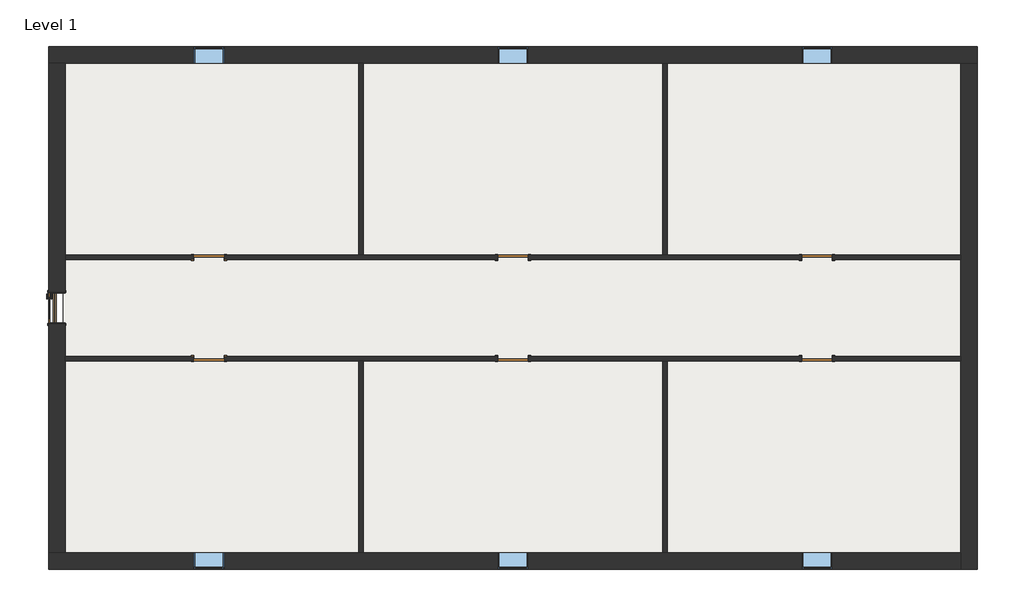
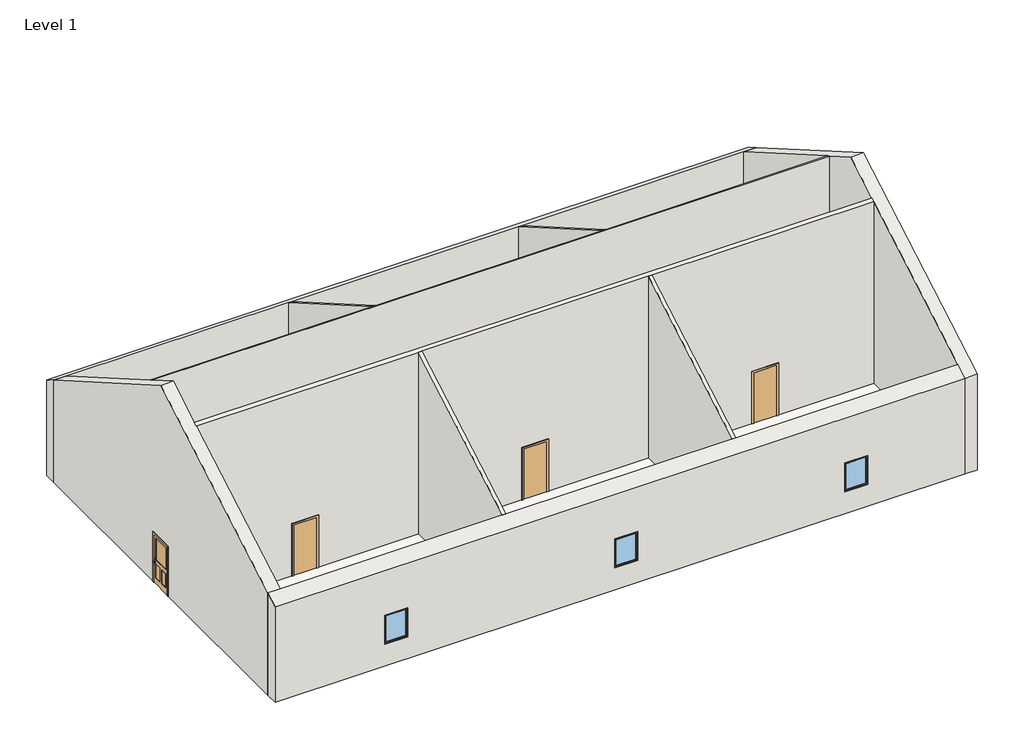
# One storey: 10 walls, 7 doors, 6 windows, 1 slab.
"""IFC4 building model written with IfcOpenShell, lengths in millimetres."""

from ifc_helpers import new_model, si_unit, frame, origin, place, context, project, spatial, polyline, outline, extrude, faceted_brep, transform, mapped, element, save
from components import door_9a8c5ecc, door_a1797ceb, window_eeedf783, window_4cc3bb0a

model = new_model("IFC4")

# Units and contexts
model_context = context("Model", 3, world=origin())
ifc_project = project(units=[si_unit("LENGTHUNIT", "METRE", prefix="MILLI")], contexts=[model_context])

# Site, building, storey
site = spatial("IfcSite", under=ifc_project)
building = spatial("IfcBuilding", under=site)
storey = spatial("IfcBuildingStorey", under=building, Name="Level 1", Elevation=0.0)

# Doors
placement = place(None, origin())
door_shape = door_9a8c5ecc(model_context)
element("IfcDoor", 1, ObjectType="Door-Exterior-Single-Entry-Half Flat Glass-Wood_Clad : 36\" x 80\"", at=placement, inside=storey, context=model_context, shape_type="MappedRepresentation", body=[
    mapped(door_shape, transform((-14497.0350729, 1304.794194, 0.0), x_axis=(0.0, 1.0, 0.0), y_axis=(-1.0, 0.0, 0.0), z_axis=(0.0, 0.0, 1.0))),
])
door_2_shape = door_a1797ceb(model_context)
element("IfcDoor", 2, ObjectType="Single-Flush : 36\" x 84\"", at=placement, inside=storey, context=model_context, shape_type="MappedRepresentation", body=[
    mapped(door_2_shape, transform((-9921.8600729, 2828.794194, 0.0), x_axis=(1.0, 0.0, 0.0), y_axis=(0.0, 1.0, 0.0), z_axis=(0.0, 0.0, 1.0))),
])
element("IfcDoor", 3, ObjectType="Single-Flush : 36\" x 84\"", at=placement, inside=storey, context=model_context, shape_type="MappedRepresentation", body=[
    mapped(door_2_shape, transform((-777.8600729, 2828.794194, 0.0), x_axis=(1.0, 0.0, 0.0), y_axis=(0.0, 1.0, 0.0), z_axis=(0.0, 0.0, 1.0))),
])
element("IfcDoor", 4, ObjectType="Single-Flush : 36\" x 84\"", at=placement, inside=storey, context=model_context, shape_type="MappedRepresentation", body=[
    mapped(door_2_shape, transform((8366.1399271, 2828.794194, 0.0), x_axis=(1.0, 0.0, 0.0), y_axis=(0.0, 1.0, 0.0), z_axis=(0.0, 0.0, 1.0))),
])
element("IfcDoor", 5, ObjectType="Single-Flush : 36\" x 84\"", at=placement, inside=storey, context=model_context, shape_type="MappedRepresentation", body=[
    mapped(door_2_shape, transform((8366.1399271, -219.205806, 0.0), x_axis=(-1.0, 0.0, 0.0), y_axis=(0.0, -1.0, 0.0), z_axis=(0.0, 0.0, 1.0))),
])
element("IfcDoor", 6, ObjectType="Single-Flush : 36\" x 84\"", at=placement, inside=storey, context=model_context, shape_type="MappedRepresentation", body=[
    mapped(door_2_shape, transform((-777.8600729, -219.205806, 0.0), x_axis=(-1.0, 0.0, 0.0), y_axis=(0.0, -1.0, 0.0), z_axis=(0.0, 0.0, 1.0))),
])
element("IfcDoor", 7, ObjectType="Single-Flush : 36\" x 84\"", at=placement, inside=storey, context=model_context, shape_type="MappedRepresentation", body=[
    mapped(door_2_shape, transform((-9921.8600729, -219.205806, 0.0), x_axis=(-1.0, 0.0, 0.0), y_axis=(0.0, -1.0, 0.0), z_axis=(0.0, 0.0, 1.0))),
])

# Slab
element("IfcSlab", 8, ObjectType="Wood Truss  Joist 12\" - Carpet Finish ", at=placement, inside=storey, context=model_context, shape_type="SweptSolid", body=[
    extrude(outline(polyline([(12747.6399271, 8734.294194), (12747.6399271, -6124.705806), (-14303.3600729, -6124.705806), (-14303.3600729, 8734.294194), (12747.6399271, 8734.294194)])), frame((0.0, 0.0, -323.85), z_axis=(0.0, 0.0, 1.0), x_axis=(1.0, 0.0, 0.0)), (0.0, 0.0, 1.0), 323.85),
])

# Walls
element("IfcWall", 9, ObjectType="Exterior - Brick on CMU", at=placement, inside=storey, context=model_context, shape_type="Brep", body=[
    faceted_brep([(-14741.5100729, 8677.144194, 0.0), (-14246.2100729, 8677.144194, 0.0), (-5413.3600729, 8677.144194, 0.0), (-5286.3600729, 8677.144194, 0.0), (3730.6399271, 8677.144194, 0.0), (3857.6399271, 8677.144194, 0.0), (12690.4899271, 8677.144194, 0.0), (13185.7899271, 8677.144194, 0.0), (13185.7899271, 8677.144194, 4305.7671549), (12690.4899271, 8677.144194, 4305.7671549), (3857.6399271, 8677.144194, 4305.7671549), (3730.6399271, 8677.144194, 4305.7671549), (-5286.3600729, 8677.144194, 4305.7671549), (-5413.3600729, 8677.144194, 4305.7671549), (-14246.2100729, 8677.144194, 4305.7671549), (-14741.5100729, 8677.144194, 4305.7671549), (-10379.0600729, 8677.144194, 2133.6), (-9464.6600729, 8677.144194, 2133.6), (-9464.6600729, 8677.144194, 914.4), (-10379.0600729, 8677.144194, 914.4), (-1235.0600729, 8677.144194, 2133.6), (-320.6600729, 8677.144194, 2133.6), (-320.6600729, 8677.144194, 914.4), (-1235.0600729, 8677.144194, 914.4), (8823.3399271, 8677.144194, 2133.6), (8823.3399271, 8677.144194, 914.4), (7908.9399271, 8677.144194, 914.4), (7908.9399271, 8677.144194, 2133.6), (-14741.5100729, 9172.444194, 0.0), (-14741.5100729, 9172.444194, 4019.7443034), (13185.7899271, 9172.444194, 4019.7443034), (13185.7899271, 9172.444194, 0.0), (-10379.0600729, 9172.444194, 2133.6), (-10379.0600729, 9172.444194, 914.4), (-9464.6600729, 9172.444194, 914.4), (-9464.6600729, 9172.444194, 2133.6), (-1235.0600729, 9172.444194, 2133.6), (-1235.0600729, 9172.444194, 914.4), (-320.6600729, 9172.444194, 914.4), (-320.6600729, 9172.444194, 2133.6), (8823.3399271, 9172.444194, 2133.6), (7908.9399271, 9172.444194, 2133.6), (7908.9399271, 9172.444194, 914.4), (8823.3399271, 9172.444194, 914.4)], [[[0, 1, 2, 3, 4, 5, 6, 7, 8, 9, 10, 11, 12, 13, 14, 15], [16, 17, 18, 19], [20, 21, 22, 23], [24, 25, 26, 27]], [[28, 29, 30, 31], [32, 33, 34, 35], [36, 37, 38, 39], [40, 41, 42, 43]], [[7, 6, 5, 4, 3, 2, 1, 0, 28, 31]], [[8, 7, 31, 30]], [[0, 15, 29, 28]], [[15, 14, 13, 12, 11, 10, 9, 8, 30, 29]], [[33, 32, 16, 19]], [[34, 33, 19, 18]], [[35, 34, 18, 17]], [[32, 35, 17, 16]], [[37, 36, 20, 23]], [[38, 37, 23, 22]], [[39, 38, 22, 21]], [[36, 39, 21, 20]], [[25, 24, 40, 43]], [[26, 25, 43, 42]], [[27, 26, 42, 41]], [[24, 27, 41, 40]]]),
])
element("IfcWall", 10, ObjectType="Exterior - Brick on CMU", at=placement, inside=storey, context=model_context, shape_type="Brep", body=[
    faceted_brep([(12690.4899271, 8677.144194, 0.0), (12690.4899271, 2892.294194, 0.0), (12690.4899271, 2765.294194, 0.0), (12690.4899271, -155.705806, 0.0), (12690.4899271, -282.705806, 0.0), (12690.4899271, -6067.555806, 0.0), (12690.4899271, -6562.855806, 0.0), (12690.4899271, -6562.855806, 4019.7443034), (12690.4899271, -6067.555806, 4305.7671549), (12690.4899271, -282.705806, 7646.3673828), (12690.4899271, -155.705806, 7719.7065755), (12690.4899271, 1304.794194, 8563.1072917), (12690.4899271, 2765.294194, 7719.7065755), (12690.4899271, 2892.294194, 7646.3673828), (12690.4899271, 8677.144194, 4305.7671549), (13185.7899271, 8677.144194, 0.0), (13185.7899271, 8677.144194, 4305.7671549), (13185.7899271, 1304.794194, 8563.1072917), (13185.7899271, -6562.855806, 4019.7443034), (13185.7899271, -6562.855806, 0.0)], [[[0, 1, 2, 3, 4, 5, 6, 7, 8, 9, 10, 11, 12, 13, 14]], [[15, 16, 17, 18, 19]], [[6, 5, 4, 3, 2, 1, 0, 15, 19]], [[0, 14, 16, 15]], [[7, 6, 19, 18]], [[14, 13, 12, 11, 17, 16]], [[11, 10, 9, 8, 7, 18, 17]]]),
])
element("IfcWall", 11, ObjectType="Exterior - Brick on CMU", at=placement, inside=storey, context=model_context, shape_type="Brep", body=[
    faceted_brep([(12690.4899271, -6067.555806, 0.0), (3857.6399271, -6067.555806, 0.0), (3730.6399271, -6067.555806, 0.0), (-5286.3600729, -6067.555806, 0.0), (-5413.3600729, -6067.555806, 0.0), (-14246.2100729, -6067.555806, 0.0), (-14741.5100729, -6067.555806, 0.0), (-14741.5100729, -6067.555806, 4305.7671549), (-14246.2100729, -6067.555806, 4305.7671549), (-5413.3600729, -6067.555806, 4305.7671549), (-5286.3600729, -6067.555806, 4305.7671549), (3730.6399271, -6067.555806, 4305.7671549), (3857.6399271, -6067.555806, 4305.7671549), (12690.4899271, -6067.555806, 4305.7671549), (-10379.0600729, -6067.555806, 2133.6), (-10379.0600729, -6067.555806, 914.4), (-9464.6600729, -6067.555806, 914.4), (-9464.6600729, -6067.555806, 2133.6), (-1235.0600729, -6067.555806, 2133.6), (-1235.0600729, -6067.555806, 914.4), (-320.6600729, -6067.555806, 914.4), (-320.6600729, -6067.555806, 2133.6), (7908.9399271, -6067.555806, 2133.6), (7908.9399271, -6067.555806, 914.4), (8823.3399271, -6067.555806, 914.4), (8823.3399271, -6067.555806, 2133.6), (12690.4899271, -6562.855806, 0.0), (12690.4899271, -6562.855806, 4019.7443034), (-14741.5100729, -6562.855806, 4019.7443034), (-14741.5100729, -6562.855806, 0.0), (-10379.0600729, -6562.855806, 2133.6), (-9464.6600729, -6562.855806, 2133.6), (-9464.6600729, -6562.855806, 914.4), (-10379.0600729, -6562.855806, 914.4), (-1235.0600729, -6562.855806, 2133.6), (-320.6600729, -6562.855806, 2133.6), (-320.6600729, -6562.855806, 914.4), (-1235.0600729, -6562.855806, 914.4), (7908.9399271, -6562.855806, 2133.6), (8823.3399271, -6562.855806, 2133.6), (8823.3399271, -6562.855806, 914.4), (7908.9399271, -6562.855806, 914.4)], [[[0, 1, 2, 3, 4, 5, 6, 7, 8, 9, 10, 11, 12, 13], [14, 15, 16, 17], [18, 19, 20, 21], [22, 23, 24, 25]], [[26, 27, 28, 29], [30, 31, 32, 33], [34, 35, 36, 37], [38, 39, 40, 41]], [[6, 5, 4, 3, 2, 1, 0, 26, 29]], [[0, 13, 27, 26]], [[7, 6, 29, 28]], [[13, 12, 11, 10, 9, 8, 7, 28, 27]], [[15, 14, 30, 33]], [[16, 15, 33, 32]], [[17, 16, 32, 31]], [[14, 17, 31, 30]], [[19, 18, 34, 37]], [[20, 19, 37, 36]], [[21, 20, 36, 35]], [[18, 21, 35, 34]], [[23, 22, 38, 41]], [[24, 23, 41, 40]], [[25, 24, 40, 39]], [[22, 25, 39, 38]]]),
])
element("IfcWall", 12, ObjectType="Exterior - Brick on CMU", at=placement, inside=storey, context=model_context, shape_type="Brep", body=[
    faceted_brep([(-14246.2100729, 8677.144194, 0.0), (-14246.2100729, 8677.144194, 4305.7671549), (-14246.2100729, 2892.294194, 7646.3673828), (-14246.2100729, 2765.294194, 7719.7065755), (-14246.2100729, 1304.794194, 8563.1072917), (-14246.2100729, -155.705806, 7719.7065755), (-14246.2100729, -282.705806, 7646.3673828), (-14246.2100729, -6067.555806, 4305.7671549), (-14246.2100729, -6067.555806, 0.0), (-14246.2100729, -282.705806, 0.0), (-14246.2100729, -155.705806, 0.0), (-14246.2100729, 822.194194, 0.0), (-14246.2100729, 822.194194, 2057.4), (-14246.2100729, 1787.394194, 2057.4), (-14246.2100729, 1787.394194, 0.0), (-14246.2100729, 2765.294194, 0.0), (-14246.2100729, 2892.294194, 0.0), (-14741.5100729, 8677.144194, 4305.7671549), (-14741.5100729, 8677.144194, 0.0), (-14741.5100729, 1787.394194, 0.0), (-14741.5100729, 1787.394194, 2057.4), (-14741.5100729, 822.194194, 2057.4), (-14741.5100729, 822.194194, 0.0), (-14741.5100729, -6067.555806, 0.0), (-14741.5100729, -6067.555806, 4305.7671549), (-14741.5100729, 1304.794194, 8563.1072917)], [[[0, 1, 2, 3, 4, 5, 6, 7, 8, 9, 10, 11, 12, 13, 14, 15, 16]], [[17, 18, 19, 20, 21, 22, 23, 24, 25]], [[8, 23, 22, 11, 10, 9]], [[18, 0, 16, 15, 14, 19]], [[1, 0, 18, 17]], [[8, 7, 24, 23]], [[24, 7, 6, 5, 4, 25]], [[1, 17, 25, 4, 3, 2]], [[13, 20, 19, 14]], [[20, 13, 12, 21]], [[21, 12, 11, 22]]]),
])
element("IfcWall", 13, ObjectType="Interior - 5\" Partition (2-hr)", at=placement, inside=storey, context=model_context, shape_type="Brep", body=[
    faceted_brep([(8823.3399271, 2765.294194, 2133.6), (8823.3399271, 2765.294194, 0.0), (12690.4899271, 2765.294194, 0.0), (12690.4899271, 2765.294194, 7719.7065755), (-14246.2100729, 2765.294194, 7719.7065755), (-14246.2100729, 2765.294194, 0.0), (-10379.0600729, 2765.294194, 0.0), (-10379.0600729, 2765.294194, 2133.6), (-9464.6600729, 2765.294194, 2133.6), (-9464.6600729, 2765.294194, 0.0), (-1235.0600729, 2765.294194, 0.0), (-1235.0600729, 2765.294194, 2133.6), (-320.6600729, 2765.294194, 2133.6), (-320.6600729, 2765.294194, 0.0), (7908.9399271, 2765.294194, 0.0), (7908.9399271, 2765.294194, 2133.6), (12690.4899271, 2892.294194, 0.0), (8823.3399271, 2892.294194, 0.0), (8823.3399271, 2892.294194, 2133.6), (7908.9399271, 2892.294194, 2133.6), (7908.9399271, 2892.294194, 0.0), (3857.6399271, 2892.294194, 0.0), (3730.6399271, 2892.294194, 0.0), (-320.6600729, 2892.294194, 0.0), (-320.6600729, 2892.294194, 2133.6), (-1235.0600729, 2892.294194, 2133.6), (-1235.0600729, 2892.294194, 0.0), (-5286.3600729, 2892.294194, 0.0), (-5413.3600729, 2892.294194, 0.0), (-9464.6600729, 2892.294194, 0.0), (-9464.6600729, 2892.294194, 2133.6), (-10379.0600729, 2892.294194, 2133.6), (-10379.0600729, 2892.294194, 0.0), (-14246.2100729, 2892.294194, 0.0), (-14246.2100729, 2892.294194, 7646.3673828), (-5413.3600729, 2892.294194, 7646.3673828), (-5286.3600729, 2892.294194, 7646.3673828), (3730.6399271, 2892.294194, 7646.3673828), (3857.6399271, 2892.294194, 7646.3673828), (12690.4899271, 2892.294194, 7646.3673828)], [[[0, 1, 2, 3, 4, 5, 6, 7, 8, 9, 10, 11, 12, 13, 14, 15]], [[16, 17, 18, 19, 20, 21, 22, 23, 24, 25, 26, 27, 28, 29, 30, 31, 32, 33, 34, 35, 36, 37, 38, 39]], [[6, 5, 33, 32]], [[10, 9, 29, 28, 27, 26]], [[14, 13, 23, 22, 21, 20]], [[2, 1, 17, 16]], [[3, 2, 16, 39]], [[5, 4, 34, 33]], [[4, 3, 39, 38, 37, 36, 35, 34]], [[30, 29, 9, 8]], [[31, 30, 8, 7]], [[32, 31, 7, 6]], [[24, 23, 13, 12]], [[25, 24, 12, 11]], [[26, 25, 11, 10]], [[18, 17, 1, 0]], [[19, 18, 0, 15]], [[20, 19, 15, 14]]]),
])
element("IfcWall", 14, ObjectType="Interior - 5\" Partition (2-hr)", at=placement, inside=storey, context=model_context, shape_type="Brep", body=[
    faceted_brep([(-10379.0600729, -155.705806, 2133.6), (-10379.0600729, -155.705806, 0.0), (-14246.2100729, -155.705806, 0.0), (-14246.2100729, -155.705806, 7719.7065755), (12690.4899271, -155.705806, 7719.7065755), (12690.4899271, -155.705806, 0.0), (8823.3399271, -155.705806, 0.0), (8823.3399271, -155.705806, 2133.6), (7908.9399271, -155.705806, 2133.6), (7908.9399271, -155.705806, 0.0), (-320.6600729, -155.705806, 0.0), (-320.6600729, -155.705806, 2133.6), (-1235.0600729, -155.705806, 2133.6), (-1235.0600729, -155.705806, 0.0), (-9464.6600729, -155.705806, 0.0), (-9464.6600729, -155.705806, 2133.6), (-14246.2100729, -282.705806, 0.0), (-10379.0600729, -282.705806, 0.0), (-10379.0600729, -282.705806, 2133.6), (-9464.6600729, -282.705806, 2133.6), (-9464.6600729, -282.705806, 0.0), (-5413.3600729, -282.705806, 0.0), (-5286.3600729, -282.705806, 0.0), (-1235.0600729, -282.705806, 0.0), (-1235.0600729, -282.705806, 2133.6), (-320.6600729, -282.705806, 2133.6), (-320.6600729, -282.705806, 0.0), (3730.6399271, -282.705806, 0.0), (3857.6399271, -282.705806, 0.0), (7908.9399271, -282.705806, 0.0), (7908.9399271, -282.705806, 2133.6), (8823.3399271, -282.705806, 2133.6), (8823.3399271, -282.705806, 0.0), (12690.4899271, -282.705806, 0.0), (12690.4899271, -282.705806, 7646.3673828), (3857.6399271, -282.705806, 7646.3673828), (3730.6399271, -282.705806, 7646.3673828), (-5286.3600729, -282.705806, 7646.3673828), (-5413.3600729, -282.705806, 7646.3673828), (-14246.2100729, -282.705806, 7646.3673828)], [[[0, 1, 2, 3, 4, 5, 6, 7, 8, 9, 10, 11, 12, 13, 14, 15]], [[16, 17, 18, 19, 20, 21, 22, 23, 24, 25, 26, 27, 28, 29, 30, 31, 32, 33, 34, 35, 36, 37, 38, 39]], [[6, 5, 33, 32]], [[10, 9, 29, 28, 27, 26]], [[14, 13, 23, 22, 21, 20]], [[2, 1, 17, 16]], [[5, 4, 34, 33]], [[3, 2, 16, 39]], [[4, 3, 39, 38, 37, 36, 35, 34]], [[30, 29, 9, 8]], [[31, 30, 8, 7]], [[32, 31, 7, 6]], [[24, 23, 13, 12]], [[25, 24, 12, 11]], [[26, 25, 11, 10]], [[18, 17, 1, 0]], [[19, 18, 0, 15]], [[20, 19, 15, 14]]]),
])
element("IfcWall", 15, ObjectType="Interior - 5\" Partition (2-hr)", at=placement, inside=storey, context=model_context, shape_type="SweptSolid", body=[
    extrude(outline(polyline([(8677.144194, 0.0), (2892.294194, 0.0), (2892.294194, 7646.3673828), (8677.144194, 4305.7671549), (8677.144194, 0.0)])), frame((-5413.3600729, 0.0, 0.0), z_axis=(1.0, 0.0, 0.0), x_axis=(0.0, 1.0, 0.0)), (0.0, 0.0, 1.0), 127.0),
])
element("IfcWall", 16, ObjectType="Interior - 5\" Partition (2-hr)", at=placement, inside=storey, context=model_context, shape_type="SweptSolid", body=[
    extrude(outline(polyline([(8677.144194, 0.0), (2892.294194, 0.0), (2892.294194, 7646.3673828), (8677.144194, 4305.7671549), (8677.144194, 0.0)])), frame((3730.6399271, 0.0, 0.0), z_axis=(1.0, 0.0, 0.0), x_axis=(0.0, 1.0, 0.0)), (0.0, 0.0, 1.0), 127.0),
])
element("IfcWall", 17, ObjectType="Interior - 5\" Partition (2-hr)", at=placement, inside=storey, context=model_context, shape_type="SweptSolid", body=[
    extrude(outline(polyline([(-282.705806, 0.0), (-6067.555806, 0.0), (-6067.555806, 4305.7671549), (-282.705806, 7646.3673828), (-282.705806, 0.0)])), frame((-5413.3600729, 0.0, 0.0), z_axis=(1.0, 0.0, 0.0), x_axis=(0.0, 1.0, 0.0)), (0.0, 0.0, 1.0), 127.0),
])
element("IfcWall", 18, ObjectType="Interior - 5\" Partition (2-hr)", at=placement, inside=storey, context=model_context, shape_type="SweptSolid", body=[
    extrude(outline(polyline([(-282.705806, 0.0), (-6067.555806, 0.0), (-6067.555806, 4305.7671549), (-282.705806, 7646.3673828), (-282.705806, 0.0)])), frame((3730.6399271, 0.0, 0.0), z_axis=(1.0, 0.0, 0.0), x_axis=(0.0, 1.0, 0.0)), (0.0, 0.0, 1.0), 127.0),
])

# Windows
window_shape = window_eeedf783(model_context)
element("IfcWindow", 19, ObjectType="Fixed : 36\" x 48\"", at=placement, inside=storey, context=model_context, shape_type="MappedRepresentation", body=[
    mapped(window_shape, transform((-9959.9600729, 8924.794194, 0.0), x_axis=(-1.0, 0.0, 0.0), y_axis=(0.0, -1.0, 0.0), z_axis=(0.0, 0.0, 1.0))),
])
element("IfcWindow", 20, ObjectType="Fixed : 36\" x 48\"", at=placement, inside=storey, context=model_context, shape_type="MappedRepresentation", body=[
    mapped(window_shape, transform((-815.9600729, 8924.794194, 0.0), x_axis=(-1.0, 0.0, 0.0), y_axis=(0.0, -1.0, 0.0), z_axis=(0.0, 0.0, 1.0))),
])
window_2_shape = window_4cc3bb0a(model_context)
element("IfcWindow", 21, ObjectType="Fixed : 36\" x 48\"", at=placement, inside=storey, context=model_context, shape_type="MappedRepresentation", body=[
    mapped(window_2_shape, transform((8404.2399271, 8924.794194, 0.0), x_axis=(1.0, 0.0, 0.0), y_axis=(0.0, 1.0, 0.0), z_axis=(0.0, 0.0, 1.0))),
])
element("IfcWindow", 22, ObjectType="Fixed : 36\" x 48\"", at=placement, inside=storey, context=model_context, shape_type="MappedRepresentation", body=[
    mapped(window_2_shape, transform((-9959.9600729, -6315.205806, 0.0), x_axis=(-1.0, 0.0, 0.0), y_axis=(0.0, -1.0, 0.0), z_axis=(0.0, 0.0, 1.0))),
])
element("IfcWindow", 23, ObjectType="Fixed : 36\" x 48\"", at=placement, inside=storey, context=model_context, shape_type="MappedRepresentation", body=[
    mapped(window_2_shape, transform((-815.9600729, -6315.205806, 0.0), x_axis=(-1.0, 0.0, 0.0), y_axis=(0.0, -1.0, 0.0), z_axis=(0.0, 0.0, 1.0))),
])
element("IfcWindow", 24, ObjectType="Fixed : 36\" x 48\"", at=placement, inside=storey, context=model_context, shape_type="MappedRepresentation", body=[
    mapped(window_2_shape, transform((8328.0399271, -6315.205806, 0.0), x_axis=(-1.0, 0.0, 0.0), y_axis=(0.0, -1.0, 0.0), z_axis=(0.0, 0.0, 1.0))),
])

save(model, "model.ifc")
